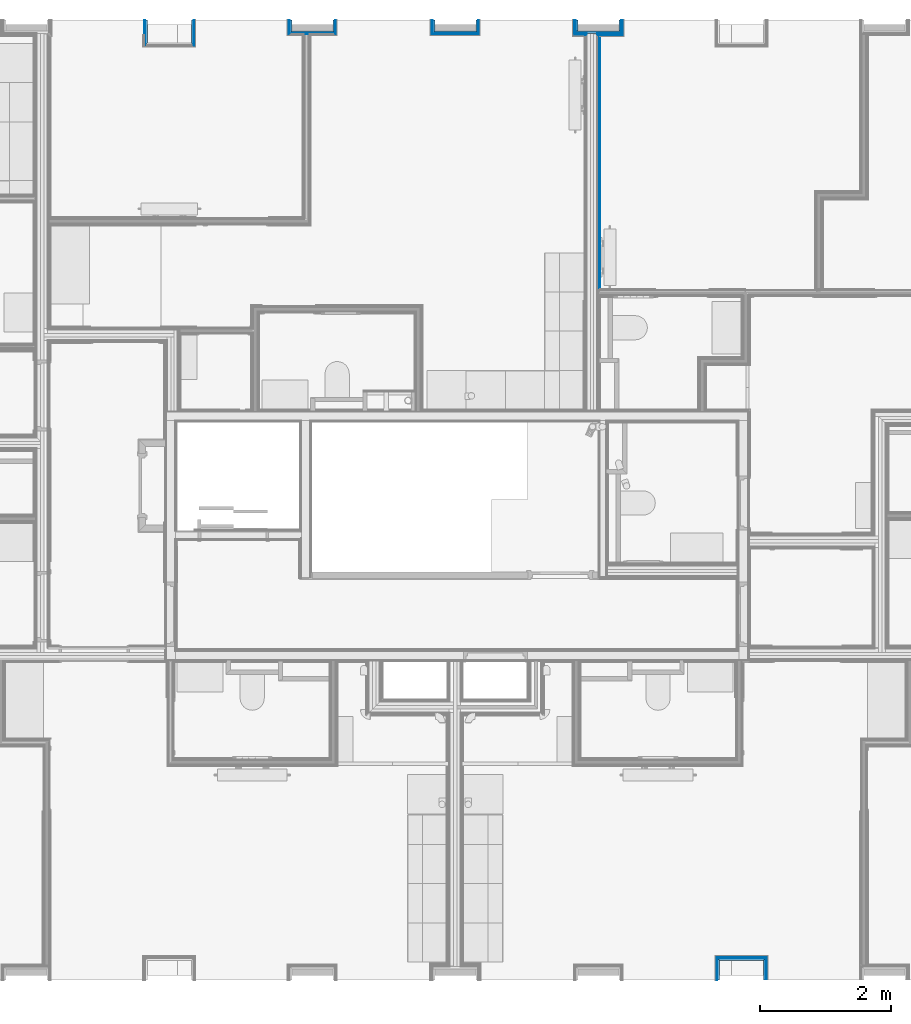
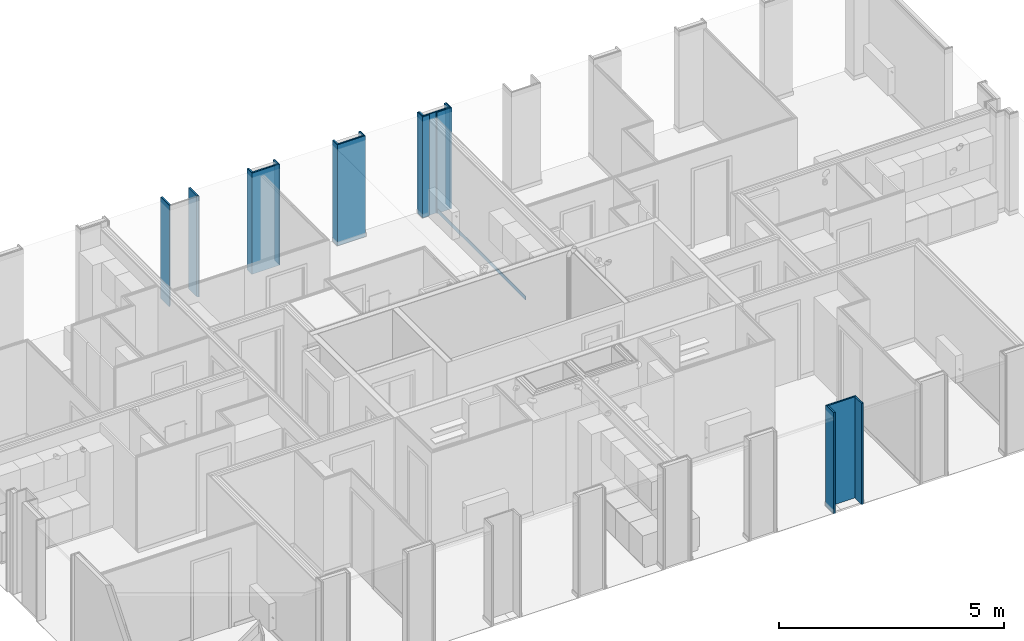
# One storey, part 17 of 85: 34 building element parts, 15 elements without a shape of their own.
"""IFC2X3 building model written with IfcOpenShell, lengths in metres."""

from ifc_helpers import new_model, entity, si_unit, converted_unit, derived_unit, money_unit, direction, frame, frame_2d, origin_with_axes, place, context, subcontext, project, spatial, polyline, rectangle, outline, extrude, material, type_object, element, aggregate, save


model = new_model("IFC2X3")

# Units and contexts
model_context = context("Model", 3, precision=1e-05, world=origin_with_axes(), true_north=direction((0.0, 1.0)))
body_context = subcontext(model_context, "Body", "Model", "MODEL_VIEW", scale=1.0)
ifc_project = project(units=[si_unit("LENGTHUNIT", "METRE"), si_unit("AREAUNIT", "SQUARE_METRE"), si_unit("VOLUMEUNIT", "CUBIC_METRE"), si_unit("ABSORBEDDOSEUNIT", "GRAY"), si_unit("AMOUNTOFSUBSTANCEUNIT", "MOLE"), si_unit("DOSEEQUIVALENTUNIT", "SIEVERT"), si_unit("ELECTRICCAPACITANCEUNIT", "FARAD"), si_unit("ELECTRICCHARGEUNIT", "COULOMB"), si_unit("ELECTRICCONDUCTANCEUNIT", "SIEMENS"), si_unit("ELECTRICCURRENTUNIT", "AMPERE"), si_unit("ELECTRICRESISTANCEUNIT", "OHM"), si_unit("ELECTRICVOLTAGEUNIT", "VOLT"), si_unit("ENERGYUNIT", "JOULE"), si_unit("FORCEUNIT", "NEWTON"), si_unit("FREQUENCYUNIT", "HERTZ"), si_unit("ILLUMINANCEUNIT", "LUX"), si_unit("INDUCTANCEUNIT", "HENRY"), si_unit("LUMINOUSFLUXUNIT", "LUMEN"), si_unit("LUMINOUSINTENSITYUNIT", "CANDELA"), si_unit("MAGNETICFLUXDENSITYUNIT", "TESLA"), si_unit("MAGNETICFLUXUNIT", "WEBER"), si_unit("MASSUNIT", "GRAM"), converted_unit("PLANEANGLEUNIT", "degree", entity("IfcReal", 0.0174532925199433), si_unit("PLANEANGLEUNIT", "RADIAN"), dimensions=[0, 0, 0, 0, 0, 0, 0]), si_unit("POWERUNIT", "WATT"), si_unit("PRESSUREUNIT", "PASCAL"), si_unit("RADIOACTIVITYUNIT", "BECQUEREL"), si_unit("SOLIDANGLEUNIT", "STERADIAN"), si_unit("THERMODYNAMICTEMPERATUREUNIT", "KELVIN"), si_unit("TIMEUNIT", "SECOND"), derived_unit("ACCELERATIONUNIT", [(si_unit("LENGTHUNIT", "METRE"), 1), (si_unit("TIMEUNIT", "SECOND"), -2)]), derived_unit("ANGULARVELOCITYUNIT", [(converted_unit("PLANEANGLEUNIT", "degree", entity("IfcReal", 0.0174532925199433), si_unit("PLANEANGLEUNIT", "RADIAN"), dimensions=[0, 0, 0, 0, 0, 0, 0]), 1), (si_unit("TIMEUNIT", "SECOND"), -1)]), derived_unit("CURVATUREUNIT", [(converted_unit("PLANEANGLEUNIT", "degree", entity("IfcReal", 0.0174532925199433), si_unit("PLANEANGLEUNIT", "RADIAN"), dimensions=[0, 0, 0, 0, 0, 0, 0]), 1), (si_unit("LENGTHUNIT", "METRE"), -1)]), derived_unit("DYNAMICVISCOSITYUNIT", [(si_unit("PRESSUREUNIT", "PASCAL"), 1), (si_unit("TIMEUNIT", "SECOND"), 1)]), derived_unit("HEATFLUXDENSITYUNIT", [(si_unit("POWERUNIT", "WATT"), 1), (si_unit("LENGTHUNIT", "METRE"), -2)]), derived_unit("HEATINGVALUEUNIT", [(si_unit("ENERGYUNIT", "JOULE"), 1), (si_unit("MASSUNIT", "GRAM"), -1)]), derived_unit("INTEGERCOUNTRATEUNIT", [(si_unit("TIMEUNIT", "SECOND"), -1)]), derived_unit("IONCONCENTRATIONUNIT", [(si_unit("MASSUNIT", "GRAM"), 1), (si_unit("VOLUMEUNIT", "CUBIC_METRE"), -1)]), derived_unit("ISOTHERMALMOISTURECAPACITYUNIT", [(si_unit("VOLUMEUNIT", "CUBIC_METRE"), 1), (si_unit("MASSUNIT", "GRAM"), -1)]), derived_unit("KINEMATICVISCOSITYUNIT", [(si_unit("AREAUNIT", "SQUARE_METRE"), 1), (si_unit("TIMEUNIT", "SECOND"), -1)]), derived_unit("LINEARFORCEUNIT", [(si_unit("FORCEUNIT", "NEWTON"), 1), (si_unit("LENGTHUNIT", "METRE"), -1)]), derived_unit("LINEARMOMENTUNIT", [(si_unit("FORCEUNIT", "NEWTON"), 1), (si_unit("LENGTHUNIT", "METRE"), -1)]), derived_unit("LINEARSTIFFNESSUNIT", [(si_unit("FORCEUNIT", "NEWTON"), 1), (si_unit("LENGTHUNIT", "METRE"), -1)]), derived_unit("LINEARVELOCITYUNIT", [(si_unit("LENGTHUNIT", "METRE"), 1), (si_unit("TIMEUNIT", "SECOND"), -1)]), derived_unit("LUMINOUSINTENSITYDISTRIBUTIONUNIT", [(si_unit("LUMINOUSINTENSITYUNIT", "CANDELA"), 1), (si_unit("LUMINOUSFLUXUNIT", "LUMEN"), -1)]), derived_unit("MASSDENSITYUNIT", [(si_unit("MASSUNIT", "GRAM"), 1), (si_unit("VOLUMEUNIT", "CUBIC_METRE"), -1)]), derived_unit("MASSFLOWRATEUNIT", [(si_unit("MASSUNIT", "GRAM"), 1), (si_unit("TIMEUNIT", "SECOND"), -1)]), derived_unit("MASSPERLENGTHUNIT", [(si_unit("MASSUNIT", "GRAM"), 1), (si_unit("LENGTHUNIT", "METRE"), -1)]), derived_unit("MODULUSOFELASTICITYUNIT", [(si_unit("FORCEUNIT", "NEWTON"), 1), (si_unit("AREAUNIT", "SQUARE_METRE"), -1)]), derived_unit("MODULUSOFLINEARSUBGRADEREACTIONUNIT", [(si_unit("FORCEUNIT", "NEWTON"), 1), (si_unit("LENGTHUNIT", "METRE"), -2)]), derived_unit("MODULUSOFROTATIONALSUBGRADEREACTIONUNIT", [(si_unit("FORCEUNIT", "NEWTON"), 1), (si_unit("LENGTHUNIT", "METRE"), 1)]), derived_unit("MODULUSOFSUBGRADEREACTIONUNIT", [(si_unit("FORCEUNIT", "NEWTON"), 1), (si_unit("VOLUMEUNIT", "CUBIC_METRE"), -1)]), derived_unit("MOISTUREDIFFUSIVITYUNIT", [(si_unit("VOLUMEUNIT", "CUBIC_METRE"), 1), (si_unit("TIMEUNIT", "SECOND"), -1)]), derived_unit("MOLECULARWEIGHTUNIT", [(si_unit("MASSUNIT", "GRAM"), 1), (si_unit("AMOUNTOFSUBSTANCEUNIT", "MOLE"), -1)]), derived_unit("PLANARFORCEUNIT", [(si_unit("FORCEUNIT", "NEWTON"), 1), (si_unit("LENGTHUNIT", "METRE"), -2)]), derived_unit("ROTATIONALFREQUENCYUNIT", [(si_unit("TIMEUNIT", "SECOND"), -1)]), derived_unit("ROTATIONALMASSUNIT", [(si_unit("MASSUNIT", "GRAM"), 1), (si_unit("LENGTHUNIT", "METRE"), 2)]), derived_unit("ROTATIONALSTIFFNESSUNIT", [(si_unit("FORCEUNIT", "NEWTON"), 1), (si_unit("LENGTHUNIT", "METRE"), 1), (converted_unit("PLANEANGLEUNIT", "degree", entity("IfcReal", 0.0174532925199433), si_unit("PLANEANGLEUNIT", "RADIAN"), dimensions=[0, 0, 0, 0, 0, 0, 0]), -1)]), derived_unit("SECTIONAREAINTEGRALUNIT", [(si_unit("LENGTHUNIT", "METRE"), 5)]), derived_unit("SECTIONMODULUSUNIT", [(si_unit("LENGTHUNIT", "METRE"), 3)]), derived_unit("SHEARMODULUSUNIT", [(si_unit("FORCEUNIT", "NEWTON"), 1), (si_unit("AREAUNIT", "SQUARE_METRE"), -1)]), derived_unit("SOUNDPOWERUNIT", [(si_unit("ENERGYUNIT", "JOULE"), 1), (si_unit("TIMEUNIT", "SECOND"), -1)]), derived_unit("SPECIFICHEATCAPACITYUNIT", [(si_unit("FORCEUNIT", "NEWTON"), 1), (si_unit("MASSUNIT", "GRAM"), -1), (si_unit("THERMODYNAMICTEMPERATUREUNIT", "KELVIN"), -1)]), derived_unit("TEMPERATUREGRADIENTUNIT", [(si_unit("THERMODYNAMICTEMPERATUREUNIT", "KELVIN"), 1), (si_unit("LENGTHUNIT", "METRE"), -1)]), derived_unit("THERMALADMITTANCEUNIT", [(si_unit("POWERUNIT", "WATT"), 1), (si_unit("AREAUNIT", "SQUARE_METRE"), -1), (si_unit("THERMODYNAMICTEMPERATUREUNIT", "KELVIN"), -1)]), derived_unit("THERMALCONDUCTANCEUNIT", [(si_unit("POWERUNIT", "WATT"), 1), (si_unit("LENGTHUNIT", "METRE"), -1), (si_unit("THERMODYNAMICTEMPERATUREUNIT", "KELVIN"), -1)]), derived_unit("THERMALEXPANSIONCOEFFICIENTUNIT", [(si_unit("THERMODYNAMICTEMPERATUREUNIT", "KELVIN"), -1)]), derived_unit("THERMALRESISTANCEUNIT", [(si_unit("AREAUNIT", "SQUARE_METRE"), 1), (si_unit("POWERUNIT", "WATT"), -1)]), derived_unit("THERMALTRANSMITTANCEUNIT", [(si_unit("POWERUNIT", "WATT"), 1), (si_unit("AREAUNIT", "SQUARE_METRE"), -1), (si_unit("THERMODYNAMICTEMPERATUREUNIT", "KELVIN"), -1)]), derived_unit("TORQUEUNIT", [(si_unit("FORCEUNIT", "NEWTON"), 1), (si_unit("LENGTHUNIT", "METRE"), 1)]), derived_unit("VAPORPERMEABILITYUNIT", [(si_unit("MASSUNIT", "GRAM"), 1), (si_unit("TIMEUNIT", "SECOND"), -1)]), derived_unit("VOLUMETRICFLOWRATEUNIT", [(si_unit("VOLUMEUNIT", "CUBIC_METRE"), 1), (si_unit("TIMEUNIT", "SECOND"), -1)]), derived_unit("WARPINGCONSTANTUNIT", [(si_unit("LENGTHUNIT", "METRE"), 6)]), derived_unit("WARPINGMOMENTUNIT", [(si_unit("FORCEUNIT", "NEWTON"), 1), (si_unit("LENGTHUNIT", "METRE"), 2)]), money_unit("GBP")], contexts=[model_context])

# Site, building, storey
site_placement = place(None, origin_with_axes())
site = spatial("IfcSite", under=ifc_project, at=site_placement, Name="Site", CompositionType="ELEMENT")
building_placement = place(site_placement, origin_with_axes())
building = spatial("IfcBuilding", under=site, at=building_placement, Name="Building01", CompositionType="ELEMENT")
storey_placement = place(building_placement, frame((0.0, 0.0, 12.13), z_axis=(0.0, 0.0, 1.0), x_axis=(1.0, 0.0, 0.0)))
storey = spatial("IfcBuildingStorey", under=building, at=storey_placement, Name="3F", CompositionType="ELEMENT", Elevation=12.13)

# Wall, building element parts
wall_type_1 = type_object("IfcWallType", Name="SHE_A-Walls_Type06d_ExternalWallInsulation_48mm", PredefinedType="NOTDEFINED")
wall_1_placement = place(storey_placement, frame((17.55, 0.1, 0.0), z_axis=(0.0, 0.0, 1.0), x_axis=(0.0, 1.0, 0.0)))
wall_1 = element("IfcWall", 1, at=wall_1_placement, inside=storey, type_object=wall_type_1, Name="6D", ObjectType="SHE_A-Walls_Type06d_ExternalWallInsulation_48mm")
ifc_material_1 = material(Name="A_BSUK_Insulation")
placement_1 = place(wall_1_placement, origin_with_axes())
building_element_part_1 = element("IfcBuildingElementPart", 2, at=placement_1, material=ifc_material_1, Name="1", context=body_context, shape_type="SweptSolid", body=[
    extrude(outline(polyline([(0.336, 0.036), (0.0, 0.036), (0.0, 0.0), (0.3, 0.0), (0.336, 0.036)])), origin_with_axes(), (0.0, 0.0, 1.0), 2.74),
])
ifc_material_2 = material(Name="A_BSUK_WallInternal_Finishes_Plasterboard")
building_element_part_2 = element("IfcBuildingElementPart", 3, at=placement_1, material=ifc_material_2, Name="2", context=body_context, shape_type="SweptSolid", body=[
    extrude(outline(polyline([(0.348, 0.048), (0.0, 0.048), (0.0, 0.035), (0.335, 0.035), (0.348, 0.048)])), origin_with_axes(), (0.0, 0.0, 1.0), 2.74),
])
aggregate(wall_1, [building_element_part_1, building_element_part_2])

wall_2_placement = place(storey_placement, frame((17.55, 0.4, 0.0), z_axis=(0.0, 0.0, 1.0), x_axis=(1.0, 0.0, 0.0)))
wall_2 = element("IfcWall", 4, at=wall_2_placement, inside=storey, type_object=wall_type_1, Name="6D", ObjectType="SHE_A-Walls_Type06d_ExternalWallInsulation_48mm")
placement_2 = place(wall_2_placement, origin_with_axes())
building_element_part_3 = element("IfcBuildingElementPart", 5, at=placement_2, material=ifc_material_1, Name="1", context=body_context, shape_type="SweptSolid", body=[
    extrude(outline(polyline([(0.706, 0.036), (-0.036, 0.036), (0.0, 0.0), (0.67, 0.0), (0.706, 0.036)])), origin_with_axes(), (0.0, 0.0, 1.0), 2.74),
])
building_element_part_4 = element("IfcBuildingElementPart", 6, at=placement_2, material=ifc_material_2, Name="2", context=body_context, shape_type="SweptSolid", body=[
    extrude(outline(polyline([(0.718, 0.048), (-0.048, 0.048), (-0.035, 0.035), (0.705, 0.035), (0.718, 0.048)])), origin_with_axes(), (0.0, 0.0, 1.0), 2.74),
])
aggregate(wall_2, [building_element_part_3, building_element_part_4])

wall_3_placement = place(storey_placement, frame((18.22, 0.4, 0.0), z_axis=(0.0, 0.0, 1.0), x_axis=(0.0, -1.0, 0.0)))
wall_3 = element("IfcWall", 7, at=wall_3_placement, inside=storey, type_object=wall_type_1, Name="6D", ObjectType="SHE_A-Walls_Type06d_ExternalWallInsulation_48mm")
placement_3 = place(wall_3_placement, origin_with_axes())
building_element_part_5 = element("IfcBuildingElementPart", 8, at=placement_3, material=ifc_material_1, Name="1", context=body_context, shape_type="SweptSolid", body=[
    extrude(outline(polyline([(-0.036, 0.036), (0.0, 0.0), (0.3, 0.0), (0.3, 0.036), (-0.036, 0.036)])), origin_with_axes(), (0.0, 0.0, 1.0), 2.74),
])
building_element_part_6 = element("IfcBuildingElementPart", 9, at=placement_3, material=ifc_material_2, Name="2", context=body_context, shape_type="SweptSolid", body=[
    extrude(outline(polyline([(-0.048, 0.048), (-0.035, 0.035), (0.3, 0.035), (0.3, 0.048), (-0.048, 0.048)])), origin_with_axes(), (0.0, 0.0, 1.0), 2.74),
])
aggregate(wall_3, [building_element_part_5, building_element_part_6])

wall_4_placement = place(storey_placement, frame((9.46, 14.8, 0.0), z_axis=(0.0, 0.0, 1.0), x_axis=(0.0, -1.0, 0.0)))
wall_4 = element("IfcWall", 10, at=wall_4_placement, inside=storey, type_object=wall_type_1, Name="6D", ObjectType="SHE_A-Walls_Type06d_ExternalWallInsulation_48mm")
placement_4 = place(wall_4_placement, origin_with_axes())
building_element_part_7 = element("IfcBuildingElementPart", 11, at=placement_4, material=ifc_material_1, Name="1", context=body_context, shape_type="SweptSolid", body=[
    extrude(outline(polyline([(0.386, 0.036), (0.0, 0.036), (0.0, 0.0), (0.35, 0.0), (0.386, 0.036)])), origin_with_axes(), (0.0, 0.0, 1.0), 2.74),
])
building_element_part_8 = element("IfcBuildingElementPart", 12, at=placement_4, material=ifc_material_2, Name="2", context=body_context, shape_type="SweptSolid", body=[
    extrude(outline(polyline([(0.398, 0.048), (0.0, 0.048), (0.0, 0.035), (0.385, 0.035), (0.398, 0.048)])), origin_with_axes(), (0.0, 0.0, 1.0), 2.74),
])
aggregate(wall_4, [building_element_part_7, building_element_part_8])

wall_5_placement = place(storey_placement, frame((8.79, 14.45, 0.0), z_axis=(0.0, 0.0, 1.0), x_axis=(0.0, 1.0, 0.0)))
wall_5 = element("IfcWall", 13, at=wall_5_placement, inside=storey, type_object=wall_type_1, Name="6D", ObjectType="SHE_A-Walls_Type06d_ExternalWallInsulation_48mm")
placement_5 = place(wall_5_placement, origin_with_axes())
building_element_part_9 = element("IfcBuildingElementPart", 14, at=placement_5, material=ifc_material_1, Name="1", context=body_context, shape_type="SweptSolid", body=[
    extrude(outline(polyline([(-0.036, 0.036), (0.0, 0.0), (0.35, 0.0), (0.35, 0.036), (-0.036, 0.036)])), origin_with_axes(), (0.0, 0.0, 1.0), 2.74),
])
building_element_part_10 = element("IfcBuildingElementPart", 15, at=placement_5, material=ifc_material_2, Name="2", context=body_context, shape_type="SweptSolid", body=[
    extrude(outline(polyline([(-0.048, 0.048), (-0.035, 0.035), (0.35, 0.035), (0.35, 0.048), (-0.048, 0.048)])), origin_with_axes(), (0.0, 0.0, 1.0), 2.74),
])
aggregate(wall_5, [building_element_part_9, building_element_part_10])

wall_6_placement = place(storey_placement, frame((11.627, 14.8, 0.0), z_axis=(0.0, 0.0, 1.0), x_axis=(0.0, -1.0, 0.0)))
wall_6 = element("IfcWall", 16, at=wall_6_placement, inside=storey, type_object=wall_type_1, Name="6D", ObjectType="SHE_A-Walls_Type06d_ExternalWallInsulation_48mm")
placement_6 = place(wall_6_placement, origin_with_axes())
building_element_part_11 = element("IfcBuildingElementPart", 17, at=placement_6, material=ifc_material_1, Name="1", context=body_context, shape_type="SweptSolid", body=[
    extrude(outline(polyline([(0.206, 0.036), (0.0, 0.036), (0.0, 0.0), (0.17, 0.0), (0.206, 0.036)])), origin_with_axes(), (0.0, 0.0, 1.0), 2.74),
])
building_element_part_12 = element("IfcBuildingElementPart", 18, at=placement_6, material=ifc_material_2, Name="2", context=body_context, shape_type="SweptSolid", body=[
    extrude(outline(polyline([(0.218, 0.048), (0.0, 0.048), (0.0, 0.035), (0.205, 0.035), (0.218, 0.048)])), origin_with_axes(), (0.0, 0.0, 1.0), 2.74),
])
aggregate(wall_6, [building_element_part_11, building_element_part_12])

wall_7_placement = place(storey_placement, frame((11.003, 14.63, 0.0), z_axis=(0.0, 0.0, 1.0), x_axis=(0.0, 1.0, 0.0)))
wall_7 = element("IfcWall", 19, at=wall_7_placement, inside=storey, type_object=wall_type_1, Name="6D", ObjectType="SHE_A-Walls_Type06d_ExternalWallInsulation_48mm")
placement_7 = place(wall_7_placement, origin_with_axes())
building_element_part_13 = element("IfcBuildingElementPart", 20, at=placement_7, material=ifc_material_1, Name="1", context=body_context, shape_type="SweptSolid", body=[
    extrude(outline(polyline([(-0.036, 0.036), (0.0, 0.0), (0.17, 0.0), (0.17, 0.036), (-0.036, 0.036)])), origin_with_axes(), (0.0, 0.0, 1.0), 2.74),
])
building_element_part_14 = element("IfcBuildingElementPart", 21, at=placement_7, material=ifc_material_2, Name="2", context=body_context, shape_type="SweptSolid", body=[
    extrude(outline(polyline([(-0.048, 0.048), (-0.035, 0.035), (0.17, 0.035), (0.17, 0.048), (-0.048, 0.048)])), origin_with_axes(), (0.0, 0.0, 1.0), 2.74),
])
aggregate(wall_7, [building_element_part_13, building_element_part_14])

wall_8_placement = place(storey_placement, frame((13.817, 14.8, 0.0), z_axis=(0.0, 0.0, 1.0), x_axis=(0.0, -1.0, 0.0)))
wall_8 = element("IfcWall", 22, at=wall_8_placement, inside=storey, type_object=wall_type_1, Name="6D", ObjectType="SHE_A-Walls_Type06d_ExternalWallInsulation_48mm")
placement_8 = place(wall_8_placement, origin_with_axes())
building_element_part_15 = element("IfcBuildingElementPart", 23, at=placement_8, material=ifc_material_1, Name="1", context=body_context, shape_type="SweptSolid", body=[
    extrude(outline(polyline([(0.206, 0.036), (0.0, 0.036), (0.0, 0.0), (0.17, 0.0), (0.206, 0.036)])), origin_with_axes(), (0.0, 0.0, 1.0), 2.74),
])
building_element_part_16 = element("IfcBuildingElementPart", 24, at=placement_8, material=ifc_material_2, Name="2", context=body_context, shape_type="SweptSolid", body=[
    extrude(outline(polyline([(0.218, 0.048), (0.0, 0.048), (0.0, 0.035), (0.205, 0.035), (0.218, 0.048)])), origin_with_axes(), (0.0, 0.0, 1.0), 2.74),
])
aggregate(wall_8, [building_element_part_15, building_element_part_16])

wall_9_placement = place(storey_placement, frame((13.817, 14.63, 0.0), z_axis=(0.0, 0.0, 1.0), x_axis=(-1.0, 0.0, 0.0)))
wall_9 = element("IfcWall", 25, at=wall_9_placement, inside=storey, type_object=wall_type_1, Name="6D", ObjectType="SHE_A-Walls_Type06d_ExternalWallInsulation_48mm")
placement_9 = place(wall_9_placement, origin_with_axes())
building_element_part_17 = element("IfcBuildingElementPart", 26, at=placement_9, material=ifc_material_1, Name="1", context=body_context, shape_type="SweptSolid", body=[
    extrude(outline(polyline([(0.66, 0.036), (-0.036, 0.036), (0.0, 0.0), (0.624, 0.0), (0.66, 0.036)])), origin_with_axes(), (0.0, 0.0, 1.0), 2.74),
])
building_element_part_18 = element("IfcBuildingElementPart", 27, at=placement_9, material=ifc_material_2, Name="2", context=body_context, shape_type="SweptSolid", body=[
    extrude(outline(polyline([(0.672, 0.048), (-0.048, 0.048), (-0.035, 0.035), (0.659, 0.035), (0.672, 0.048)])), origin_with_axes(), (0.0, 0.0, 1.0), 2.74),
])
aggregate(wall_9, [building_element_part_17, building_element_part_18])

wall_10_placement = place(storey_placement, frame((13.193, 14.63, 0.0), z_axis=(0.0, 0.0, 1.0), x_axis=(0.0, 1.0, 0.0)))
wall_10 = element("IfcWall", 28, at=wall_10_placement, inside=storey, type_object=wall_type_1, Name="6D", ObjectType="SHE_A-Walls_Type06d_ExternalWallInsulation_48mm")
placement_10 = place(wall_10_placement, origin_with_axes())
building_element_part_19 = element("IfcBuildingElementPart", 29, at=placement_10, material=ifc_material_1, Name="1", context=body_context, shape_type="SweptSolid", body=[
    extrude(outline(polyline([(-0.036, 0.036), (0.0, 0.0), (0.17, 0.0), (0.17, 0.036), (-0.036, 0.036)])), origin_with_axes(), (0.0, 0.0, 1.0), 2.74),
])
building_element_part_20 = element("IfcBuildingElementPart", 30, at=placement_10, material=ifc_material_2, Name="2", context=body_context, shape_type="SweptSolid", body=[
    extrude(outline(polyline([(-0.048, 0.048), (-0.035, 0.035), (0.17, 0.035), (0.17, 0.048), (-0.048, 0.048)])), origin_with_axes(), (0.0, 0.0, 1.0), 2.74),
])
aggregate(wall_10, [building_element_part_19, building_element_part_20])

# Wall, building element part
wall_type_2 = type_object("IfcWallType", Name="SHE_A-Walls_Type01c_Partywall_225mm_twin_tall", PredefinedType="NOTDEFINED")
wall_11_placement = place(storey_placement, frame((15.620132, 8.82, 0.0), z_axis=(0.0, 0.0, 1.0), x_axis=(0.0, 1.0, 0.0)))
wall_11 = element("IfcWall", 31, at=wall_11_placement, inside=storey, type_object=wall_type_2, Name="1C", ObjectType="SHE_A-Walls_Type01c_Partywall_225mm_twin_tall")
ifc_material_3 = material(Name="A_BSUK_Walls_Timber")
building_element_part_21_placement = place(wall_11_placement, origin_with_axes())
building_element_part_21 = element("IfcBuildingElementPart", 32, at=building_element_part_21_placement, material=ifc_material_3, Name="2", context=body_context, shape_type="SweptSolid", body=[
    extrude(rectangle(XDim=3.902, YDim=0.015, at=frame_2d((3.796, -0.0955), x_axis=(-1.0, 0.0))), frame((0.0, 0.0, 0.015), z_axis=(0.0, 0.0, 1.0), x_axis=(1.0, 0.0, 0.0)), (0.0, 0.0, 1.0), 0.1),
])
aggregate(wall_11, [building_element_part_21])

# Wall, building element parts
wall_12_placement = place(storey_placement, frame((11.627, 14.63, 0.0), z_axis=(0.0, 0.0, 1.0), x_axis=(-1.0, 0.0, 0.0)))
wall_12 = element("IfcWall", 33, at=wall_12_placement, inside=storey, type_object=wall_type_1, Name="6D", ObjectType="SHE_A-Walls_Type06d_ExternalWallInsulation_48mm")
placement_11 = place(wall_12_placement, origin_with_axes())
building_element_part_22 = element("IfcBuildingElementPart", 34, at=placement_11, material=ifc_material_1, Name="1", context=body_context, shape_type="SweptSolid", body=[
    extrude(outline(polyline([(0.66, 0.036), (-0.036, 0.036), (0.0, 0.0), (0.624, 0.0), (0.66, 0.036)])), origin_with_axes(), (0.0, 0.0, 1.0), 2.74),
])
building_element_part_23 = element("IfcBuildingElementPart", 35, at=placement_11, material=ifc_material_2, Name="2", context=body_context, shape_type="SweptSolid", body=[
    extrude(outline(polyline([(0.672, 0.048), (-0.048, 0.048), (-0.035, 0.035), (0.659, 0.035), (0.672, 0.048)])), origin_with_axes(), (0.0, 0.0, 1.0), 2.74),
])
aggregate(wall_12, [building_element_part_22, building_element_part_23])

wall_type_3 = type_object("IfcWallType", Name="SHE_A-Walls_Type06f_ExternalWallInsulation_48+15mm", PredefinedType="NOTDEFINED")
wall_13_placement = place(storey_placement, frame((15.383, 14.8, 0.0), z_axis=(0.0, 0.0, 1.0), x_axis=(0.0, -1.0, 0.0)))
wall_13 = element("IfcWall", 36, at=wall_13_placement, inside=storey, type_object=wall_type_3, Name="6F", ObjectType="SHE_A-Walls_Type06f_ExternalWallInsulation_48+15mm")
placement_12 = place(wall_13_placement, origin_with_axes())
building_element_part_24 = element("IfcBuildingElementPart", 37, at=placement_12, material=ifc_material_2, Name="2", context=body_context, shape_type="SweptSolid", body=[
    extrude(outline(polyline([(0.218, -0.048), (0.0, -0.048), (0.0, -0.063), (0.233, -0.063), (0.218, -0.048)])), origin_with_axes(), (0.0, 0.0, 1.0), 2.74),
])
building_element_part_25 = element("IfcBuildingElementPart", 38, at=placement_12, material=ifc_material_2, Name="3", context=body_context, shape_type="SweptSolid", body=[
    extrude(rectangle(XDim=0.206, YDim=0.012, at=frame_2d((0.103, -0.042), x_axis=(-1.0, 0.0))), origin_with_axes(), (0.0, 0.0, 1.0), 2.74),
])
building_element_part_26 = element("IfcBuildingElementPart", 39, at=placement_12, material=ifc_material_1, Name="4", context=body_context, shape_type="SweptSolid", body=[
    extrude(rectangle(XDim=0.17, YDim=0.036, at=frame_2d((0.085, -0.018), x_axis=(-1.0, 0.0))), origin_with_axes(), (0.0, 0.0, 1.0), 2.74),
])
aggregate(wall_13, [building_element_part_24, building_element_part_25, building_element_part_26])

wall_14_placement = place(storey_placement, frame((16.007124, 14.8, 0.0), z_axis=(0.0, 0.0, 1.0), x_axis=(0.0, -1.0, 0.0)))
wall_14 = element("IfcWall", 40, at=wall_14_placement, inside=storey, type_object=wall_type_3, Name="6F", ObjectType="SHE_A-Walls_Type06f_ExternalWallInsulation_48+15mm")
placement_13 = place(wall_14_placement, origin_with_axes())
building_element_part_27 = element("IfcBuildingElementPart", 41, at=placement_13, material=ifc_material_1, Name="1", context=body_context, shape_type="SweptSolid", body=[
    extrude(rectangle(XDim=0.17, YDim=0.036, at=frame_2d((0.085, 0.018), x_axis=(-1.0, 0.0))), origin_with_axes(), (0.0, 0.0, 1.0), 2.74),
])
building_element_part_28 = element("IfcBuildingElementPart", 42, at=placement_13, material=ifc_material_2, Name="2", context=body_context, shape_type="SweptSolid", body=[
    extrude(rectangle(XDim=0.206, YDim=0.012, at=frame_2d((0.103, 0.042), x_axis=(-1.0, 0.0))), origin_with_axes(), (0.0, 0.0, 1.0), 2.74),
])
building_element_part_29 = element("IfcBuildingElementPart", 43, at=placement_13, material=ifc_material_2, Name="3", context=body_context, shape_type="SweptSolid", body=[
    extrude(outline(polyline([(0.233, 0.063), (0.0, 0.063), (0.0, 0.048), (0.218, 0.048), (0.233, 0.063)])), origin_with_axes(), (0.0, 0.0, 1.0), 2.74),
])
aggregate(wall_14, [building_element_part_27, building_element_part_28, building_element_part_29])

wall_15_placement = place(storey_placement, frame((16.043124, 14.63, 0.0), z_axis=(0.0, 0.0, 1.0), x_axis=(-1.0, 0.0, 0.0)))
wall_15 = element("IfcWall", 44, at=wall_15_placement, inside=storey, type_object=wall_type_3, Name="6F", ObjectType="SHE_A-Walls_Type06f_ExternalWallInsulation_48+15mm")
placement_14 = place(wall_15_placement, origin_with_axes())
building_element_part_30 = element("IfcBuildingElementPart", 45, at=placement_14, material=ifc_material_1, Name="1", context=body_context, shape_type="SweptSolid", body=[
    extrude(rectangle(XDim=0.696124, YDim=0.036, at=frame_2d((0.348062, 0.018), x_axis=(-1.0, 0.0))), origin_with_axes(), (0.0, 0.0, 1.0), 2.74),
])
building_element_part_31 = element("IfcBuildingElementPart", 46, at=placement_14, material=ifc_material_2, Name="2", context=body_context, shape_type="SweptSolid", body=[
    extrude(rectangle(XDim=0.012, YDim=0.376992, at=frame_2d((0.176496, 0.042), x_axis=(0.0, -1.0))), origin_with_axes(), (0.0, 0.0, 1.0), 2.74),
])
building_element_part_32 = element("IfcBuildingElementPart", 47, at=placement_14, material=ifc_material_2, Name="3", context=body_context, shape_type="SweptSolid", body=[
    extrude(rectangle(XDim=0.178132, YDim=0.012, at=frame_2d((0.619058, 0.042), x_axis=(-1.0, 0.0))), origin_with_axes(), (0.0, 0.0, 1.0), 2.74),
])
building_element_part_33 = element("IfcBuildingElementPart", 48, at=placement_14, material=ifc_material_2, Name="4", context=body_context, shape_type="SweptSolid", body=[
    extrude(outline(polyline([(0.349992, 0.063), (-0.027, 0.063), (-0.012, 0.048), (0.349992, 0.048), (0.349992, 0.063)])), origin_with_axes(), (0.0, 0.0, 1.0), 2.74),
])
building_element_part_34 = element("IfcBuildingElementPart", 49, at=placement_14, material=ifc_material_2, Name="5", context=body_context, shape_type="SweptSolid", body=[
    extrude(outline(polyline([(0.723124, 0.063), (0.544992, 0.063), (0.544992, 0.048), (0.708124, 0.048), (0.723124, 0.063)])), origin_with_axes(), (0.0, 0.0, 1.0), 2.74),
])
aggregate(wall_15, [building_element_part_30, building_element_part_31, building_element_part_32, building_element_part_33, building_element_part_34])

save(model, "model.ifc")
